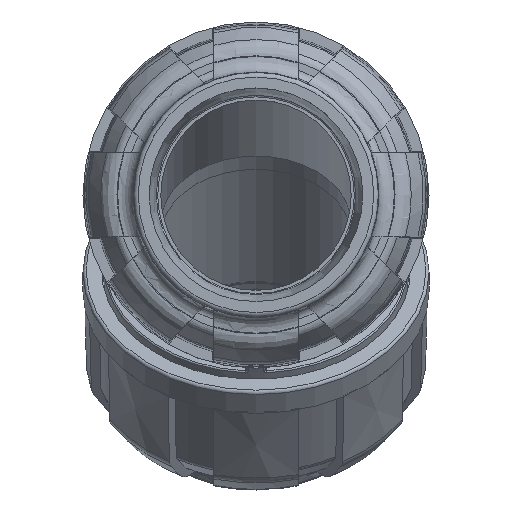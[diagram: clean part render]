
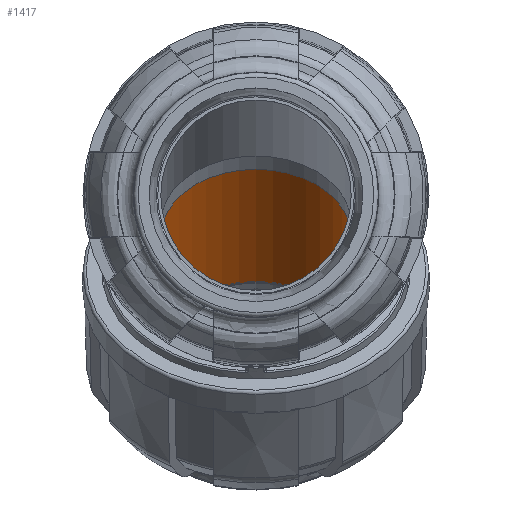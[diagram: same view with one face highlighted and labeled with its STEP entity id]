
A CAD part, top view. The second image highlights one B-rep face of the part: STEP entity #1417.
In plain terms, the highlighted cylindrical face has radius 32 mm (diameter 64 mm), a full revolution.
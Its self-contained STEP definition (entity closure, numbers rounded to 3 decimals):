
#1417 = ADVANCED_FACE( '', ( #3099, #3100 ), #3101, .F. );
#3099 = FACE_OUTER_BOUND( '', #6165, .T. );
#3100 = FACE_OUTER_BOUND( '', #6166, .T. );
#3101 = CYLINDRICAL_SURFACE( '', #6167, 32. );
#6165 = EDGE_LOOP( '', ( #12110 ) );
#6166 = EDGE_LOOP( '', ( #12111 ) );
#6167 = AXIS2_PLACEMENT_3D( '', #12112, #12113, #12114 );
#12110 = ORIENTED_EDGE( '', *, *, #14369, .F. );
#12111 = ORIENTED_EDGE( '', *, *, #15932, .T. );
#12112 = CARTESIAN_POINT( '', ( 0., -37.925, -109.558 ) );
#12113 = DIRECTION( '', ( 0., 0.707, 0.707 ) );
#12114 = DIRECTION( '', ( 1., 0., 0. ) );
#14369 = EDGE_CURVE( '', #16637, #16637, #16638, .T. );
#15932 = EDGE_CURVE( '', #19127, #19127, #19128, .F. );
#16637 = VERTEX_POINT( '', #20159 );
#16638 = CIRCLE( '', #20160, 32. );
#19127 = VERTEX_POINT( '', #26939 );
#19128 = CIRCLE( '', #26940, 32. );
#20159 = CARTESIAN_POINT( '', ( 32., -13.529, -85.163 ) );
#20160 = AXIS2_PLACEMENT_3D( '', #28856, #28857, #28858 );
#26939 = CARTESIAN_POINT( '', ( 0., -73.28, -99.659 ) );
#26940 = AXIS2_PLACEMENT_3D( '', #30468, #30469, #30470 );
#28856 = CARTESIAN_POINT( '', ( 0., -13.529, -85.163 ) );
#28857 = DIRECTION( '', ( 0., -0.707, -0.707 ) );
#28858 = DIRECTION( '', ( 1., 0., 0. ) );
#30468 = CARTESIAN_POINT( '', ( 0., -50.653, -122.286 ) );
#30469 = DIRECTION( '', ( 0., 0.707, 0.707 ) );
#30470 = DIRECTION( '', ( 0., -0.707, 0.707 ) );
